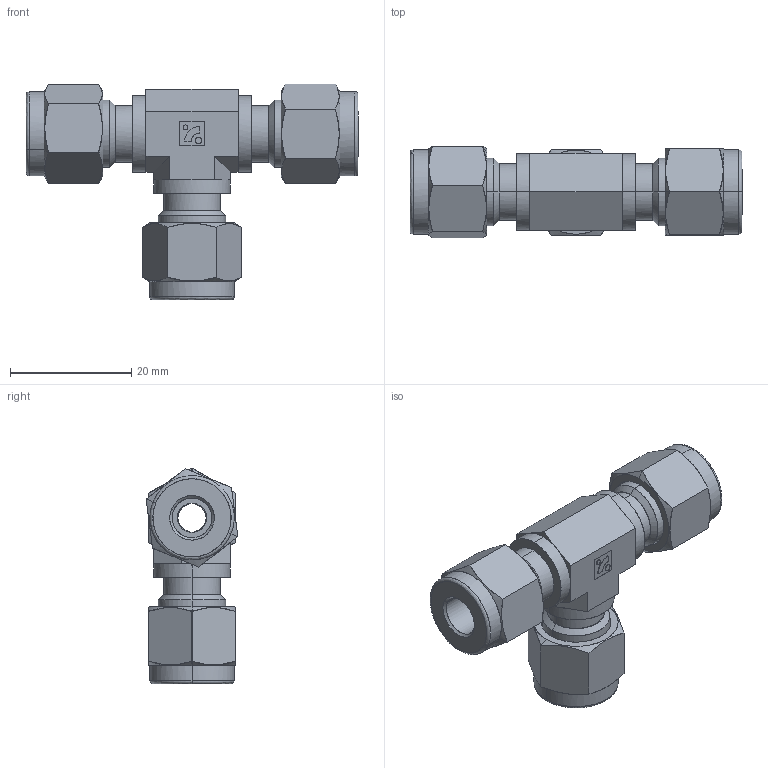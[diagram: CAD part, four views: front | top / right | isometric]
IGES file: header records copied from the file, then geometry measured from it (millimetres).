
Global section: file name: SUT-4.igs; native system:  By UGS Corp.; preprocessor: XPlus GENERIC/IGES 3.0; author: Jeon; organization: BMT; date: 20110914.104823; units: millimetre
Bounding box: 54.8 x 15.16 x 35.6 mm (x, y, z)
Surface area: 6948 mm2 (no closed solid volume)
Topology: 0 solids, 0 shells, 163 faces, 720 edges, 718 vertices
Faces by surface type: bspline 163
